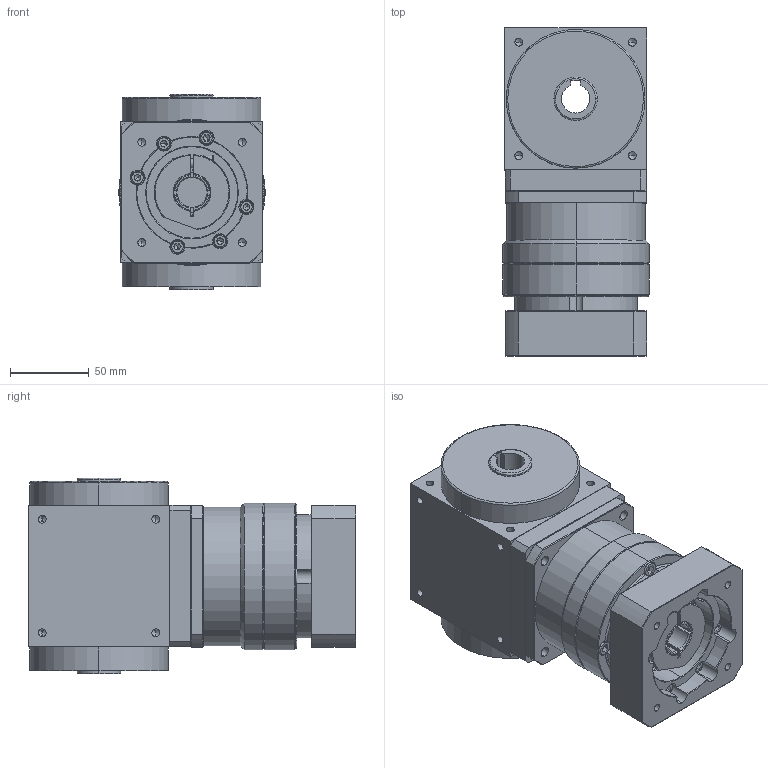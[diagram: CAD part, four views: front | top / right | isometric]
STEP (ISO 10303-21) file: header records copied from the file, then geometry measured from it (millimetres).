
FILE_DESCRIPTION (( 'STEP AP203' ), '1' );
FILE_NAME ('AT090-FH-L1 19-70-90-M6.STEP', '2024-12-19T06:42:01', ( '' ), ( '' ), 'SwSTEP 2.0', 'SolidWorks 2021', '' );
FILE_SCHEMA (( 'CONFIG_CONTROL_DESIGN' ));
Length unit declared in the file: millimetre
Products named in the file (3): AT090-FH-L1 19-70-90-M6; AT090-FH; VRB-090-L1-S2-P1 19-70-90-M6
Assembly tree (2 placements, depth 2):
  AT090-FH-L1 19-70-90-M6
    AT090-FH
    VRB-090-L1-S2-P1 19-70-90-M6
Bounding box: 93 x 208 x 124 mm (x, y, z)
Volume: 1607611.6 mm3; surface area: 206915.7 mm2
Topology: 32 solids, 32 shells, 1071 faces, 2676 edges, 1634 vertices
Faces by surface type: cylinder 436, plane 376, cone 217, torus 38, bspline 4
Entity records: 33519 total; most frequent: CARTESIAN_POINT 7887, DIRECTION 5583, ORIENTED_EDGE 5148, EDGE_CURVE 2574, AXIS2_PLACEMENT_3D 2215, VERTEX_POINT 1634, EDGE_LOOP 1206, LINE 1153
